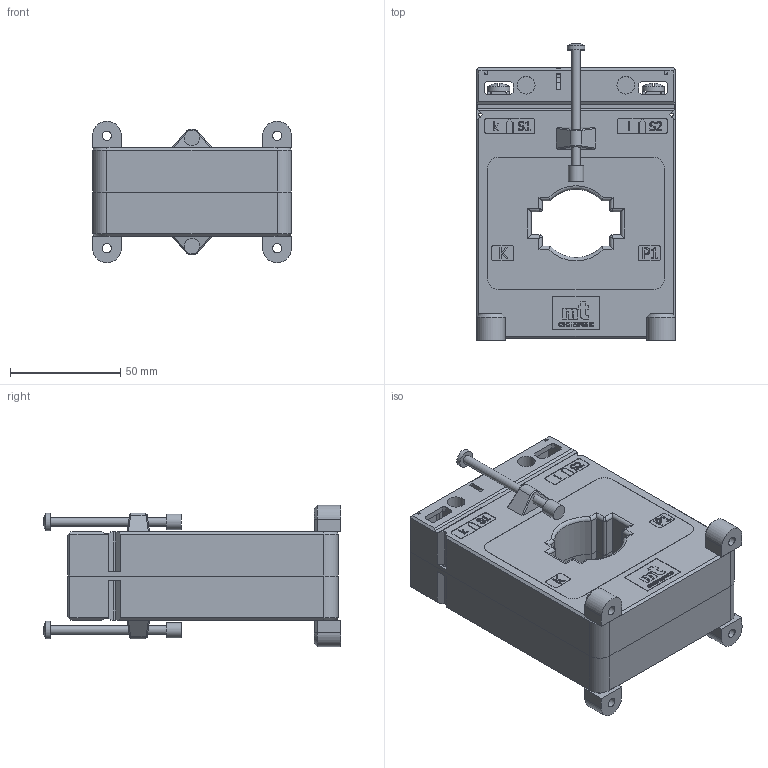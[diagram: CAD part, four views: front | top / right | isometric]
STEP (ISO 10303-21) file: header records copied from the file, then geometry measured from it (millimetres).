
FILE_DESCRIPTION(/* description */ (''),/* implementation_level */ '2;1');
FILE_NAME(/* name */ 'CLB 4.91.step',/* time_stamp */ '2024-10-12T10:11:36+02:00',/* author */ ('peter'),/* organization */ (''),/* preprocessor_version */ 'ST-DEVELOPER v20',/* originating_system */ 'Autodesk Inventor 2025',/* authorisation */ '');
FILE_SCHEMA (('AUTOMOTIVE_DESIGN { 1 0 10303 214 3 1 1 }'));
Length unit declared in the file: millimetre
Products named in the file (11): Current transformer CLB 4.91; Front plastic case CLB 4.91; Back plastic case CLB 4.91; Tape label CLB 4.91; Secondary terminal 28 CLB; Secondary terminal cover 37B CLB; Plastic mounting foot; Rivet 20; Insulating cap; Screw M5x8; Screw 4x60
Assembly tree (23 placements, depth 2):
  Current transformer CLB 4.91
    Front plastic case CLB 4.91
    Back plastic case CLB 4.91
    Tape label CLB 4.91
    Secondary terminal 28 CLB  x2
    Secondary terminal cover 37B CLB  x2
    Plastic mounting foot  x4
    Rivet 20  x4
    Insulating cap  x2
    Screw M5x8  x4
    Screw 4x60  x2
Bounding box: 90 x 134.47 x 64 mm (x, y, z)
Volume: 391115.4 mm3; surface area: 86495.2 mm2
Topology: 23 solids, 27 shells, 1829 faces, 4882 edges, 3198 vertices
Faces by surface type: plane 1151, bspline 380, cylinder 238, cone 38, torus 12, sphere 10
Full cylindrical faces by diameter (mm): 1.5 x4, 2.4 x4, 2.95 x2, 3 x6, 3.5 x2, 4 x8, 4.1 x4, 4.134 x4, 4.2 x4, 4.5 x4, 5 x8, 7 x2, 8 x18, 9 x4, 10 x4
Entity records: 50869 total; most frequent: CARTESIAN_POINT 13846, ORIENTED_EDGE 8304, DIRECTION 6099, EDGE_CURVE 4152, LINE 3003, VECTOR 3003, VERTEX_POINT 2729, EDGE_LOOP 1683
